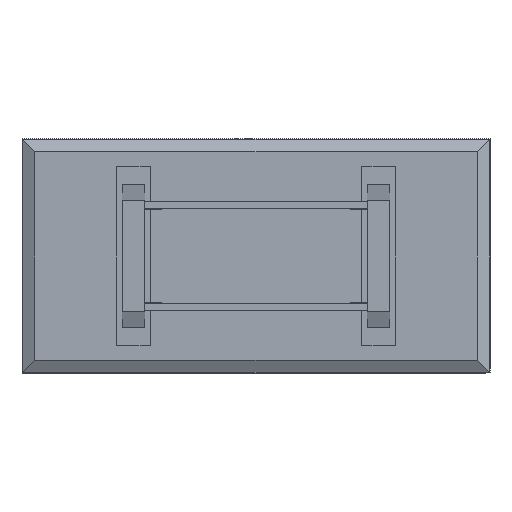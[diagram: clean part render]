
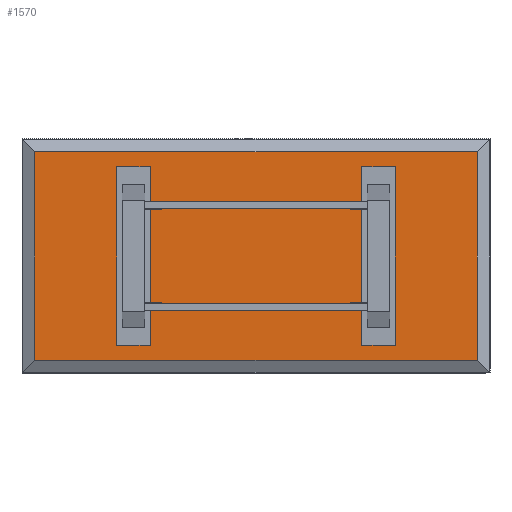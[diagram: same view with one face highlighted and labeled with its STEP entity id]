
A CAD part, front view. The second image highlights one B-rep face of the part: STEP entity #1570.
In plain terms, the highlighted planar face has unit normal (0, -1, 0).
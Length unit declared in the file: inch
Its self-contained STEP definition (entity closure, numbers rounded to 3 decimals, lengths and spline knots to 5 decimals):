
#293=FACE_BOUND('',#381,.T.);
#294=FACE_BOUND('',#382,.T.);
#306=FACE_OUTER_BOUND('',#380,.T.);
#380=EDGE_LOOP('',(#1161,#1162,#1163,#1164));
#381=EDGE_LOOP('',(#1165,#1166,#1167,#1168));
#382=EDGE_LOOP('',(#1169,#1170,#1171,#1172));
#445=LINE('',#2260,#629);
#449=LINE('',#2268,#633);
#452=LINE('',#2274,#636);
#455=LINE('',#2279,#639);
#457=LINE('',#2285,#641);
#461=LINE('',#2293,#645);
#464=LINE('',#2299,#648);
#467=LINE('',#2304,#651);
#472=LINE('',#2315,#656);
#473=LINE('',#2318,#657);
#474=LINE('',#2320,#658);
#475=LINE('',#2321,#659);
#629=VECTOR('',#1873,0.3937);
#633=VECTOR('',#1879,0.3937);
#636=VECTOR('',#1884,0.3937);
#639=VECTOR('',#1889,0.3937);
#641=VECTOR('',#1895,0.3937);
#645=VECTOR('',#1901,0.3937);
#648=VECTOR('',#1906,0.3937);
#651=VECTOR('',#1911,0.3937);
#656=VECTOR('',#1920,0.3937);
#657=VECTOR('',#1923,0.3937);
#658=VECTOR('',#1924,0.3937);
#659=VECTOR('',#1925,0.3937);
#813=VERTEX_POINT('',#2258);
#814=VERTEX_POINT('',#2259);
#817=VERTEX_POINT('',#2267);
#819=VERTEX_POINT('',#2273);
#821=VERTEX_POINT('',#2283);
#822=VERTEX_POINT('',#2284);
#825=VERTEX_POINT('',#2292);
#827=VERTEX_POINT('',#2298);
#829=VERTEX_POINT('',#2308);
#832=VERTEX_POINT('',#2313);
#833=VERTEX_POINT('',#2317);
#834=VERTEX_POINT('',#2319);
#933=EDGE_CURVE('',#813,#814,#445,.T.);
#937=EDGE_CURVE('',#817,#813,#449,.T.);
#940=EDGE_CURVE('',#819,#817,#452,.T.);
#943=EDGE_CURVE('',#814,#819,#455,.T.);
#945=EDGE_CURVE('',#821,#822,#457,.T.);
#949=EDGE_CURVE('',#825,#821,#461,.T.);
#952=EDGE_CURVE('',#827,#825,#464,.T.);
#955=EDGE_CURVE('',#822,#827,#467,.T.);
#960=EDGE_CURVE('',#832,#829,#472,.T.);
#961=EDGE_CURVE('',#833,#832,#473,.T.);
#962=EDGE_CURVE('',#834,#833,#474,.T.);
#963=EDGE_CURVE('',#829,#834,#475,.T.);
#1161=ORIENTED_EDGE('',*,*,#960,.F.);
#1162=ORIENTED_EDGE('',*,*,#961,.F.);
#1163=ORIENTED_EDGE('',*,*,#962,.F.);
#1164=ORIENTED_EDGE('',*,*,#963,.F.);
#1165=ORIENTED_EDGE('',*,*,#933,.T.);
#1166=ORIENTED_EDGE('',*,*,#943,.T.);
#1167=ORIENTED_EDGE('',*,*,#940,.T.);
#1168=ORIENTED_EDGE('',*,*,#937,.T.);
#1169=ORIENTED_EDGE('',*,*,#945,.T.);
#1170=ORIENTED_EDGE('',*,*,#955,.T.);
#1171=ORIENTED_EDGE('',*,*,#952,.T.);
#1172=ORIENTED_EDGE('',*,*,#949,.T.);
#1496=PLANE('',#1778);
#1570=ADVANCED_FACE('',(#306,#293,#294),#1496,.F.);
#1778=AXIS2_PLACEMENT_3D('',#2316,#1921,#1922);
#1873=DIRECTION('',(0.,0.,-1.));
#1879=DIRECTION('',(1.,0.,0.));
#1884=DIRECTION('',(0.,0.,1.));
#1889=DIRECTION('',(-1.,0.,0.));
#1895=DIRECTION('',(0.,0.,-1.));
#1901=DIRECTION('',(1.,0.,0.));
#1906=DIRECTION('',(0.,0.,1.));
#1911=DIRECTION('',(-1.,0.,0.));
#1920=DIRECTION('',(-1.,0.,0.));
#1921=DIRECTION('center_axis',(0.,1.,0.));
#1922=DIRECTION('ref_axis',(0.,0.,1.));
#1923=DIRECTION('',(0.,0.,-1.));
#1924=DIRECTION('',(1.,0.,0.));
#1925=DIRECTION('',(0.,0.,1.));
#2258=CARTESIAN_POINT('',(-16.875,0.,-4.875));
#2259=CARTESIAN_POINT('',(-16.875,0.,-36.875));
#2260=CARTESIAN_POINT('',(-16.875,0.,-12.875));
#2267=CARTESIAN_POINT('',(-22.875,0.,-4.875));
#2268=CARTESIAN_POINT('',(-32.375,0.,-4.875));
#2273=CARTESIAN_POINT('',(-22.875,0.,-36.875));
#2274=CARTESIAN_POINT('',(-22.875,0.,-28.875));
#2279=CARTESIAN_POINT('',(-29.375,0.,-36.875));
#2283=CARTESIAN_POINT('',(-60.875,0.,-4.875));
#2284=CARTESIAN_POINT('',(-60.875,0.,-36.875));
#2285=CARTESIAN_POINT('',(-60.875,0.,-12.875));
#2292=CARTESIAN_POINT('',(-66.875,0.,-4.875));
#2293=CARTESIAN_POINT('',(-54.375,0.,-4.875));
#2298=CARTESIAN_POINT('',(-66.875,0.,-36.875));
#2299=CARTESIAN_POINT('',(-66.875,0.,-28.875));
#2304=CARTESIAN_POINT('',(-51.375,0.,-36.875));
#2308=CARTESIAN_POINT('',(-81.58494,0.,-39.58494));
#2313=CARTESIAN_POINT('',(-2.16506,0.,-39.58494));
#2315=CARTESIAN_POINT('',(-20.9375,0.,-39.58494));
#2316=CARTESIAN_POINT('Origin',(-41.875,0.,-20.875));
#2317=CARTESIAN_POINT('',(-2.16506,0.,-2.16506));
#2318=CARTESIAN_POINT('',(-2.16506,0.,-10.4375));
#2319=CARTESIAN_POINT('',(-81.58494,0.,-2.16506));
#2320=CARTESIAN_POINT('',(-62.8125,0.,-2.16506));
#2321=CARTESIAN_POINT('',(-81.58494,0.,-31.3125));
